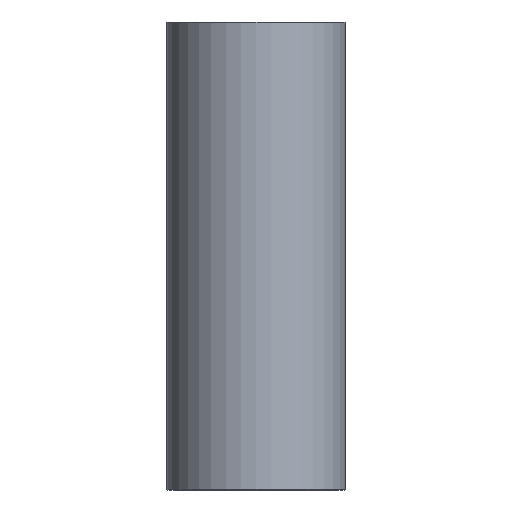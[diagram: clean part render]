
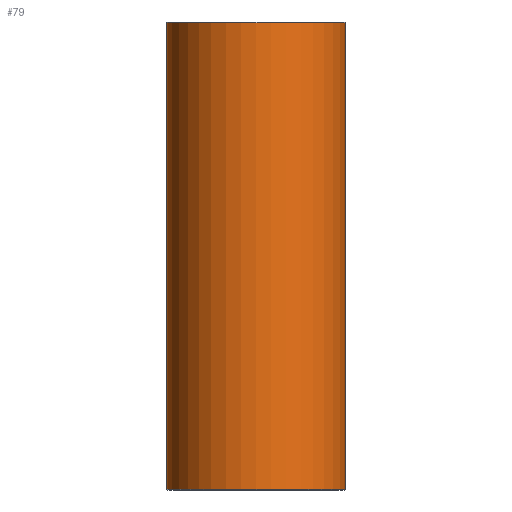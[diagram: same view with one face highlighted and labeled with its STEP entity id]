
A CAD part, front view. The second image highlights one B-rep face of the part: STEP entity #79.
In plain terms, the highlighted cylindrical face has radius 20 mm (diameter 40 mm), a full revolution.
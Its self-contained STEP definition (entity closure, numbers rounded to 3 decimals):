
#79=ADVANCED_FACE('',(#96,#97),#98,.T.);
#96=FACE_OUTER_BOUND('',#120,.T.);
#97=FACE_OUTER_BOUND('',#121,.T.);
#98=CYLINDRICAL_SURFACE('',#122,20.0);
#120=EDGE_LOOP('',(#152));
#121=EDGE_LOOP('',(#153));
#122=AXIS2_PLACEMENT_3D('',#154,#155,#156);
#152=ORIENTED_EDGE('',*,*,#178,.T.);
#153=ORIENTED_EDGE('',*,*,#177,.T.);
#154=CARTESIAN_POINT('',(0.,0.0,105.0));
#155=DIRECTION('',(0.0,0.0,-1.0));
#156=DIRECTION('',(-1.0,0.0,0.0));
#177=EDGE_CURVE('',#190,#190,#191,.T.);
#178=EDGE_CURVE('',#192,#192,#193,.F.);
#190=VERTEX_POINT('',#206);
#191=CIRCLE('',#207,20.0);
#192=VERTEX_POINT('',#208);
#193=CIRCLE('',#209,20.0);
#206=CARTESIAN_POINT('',(20.0,0.0,0.2));
#207=AXIS2_PLACEMENT_3D('',#227,#228,#229);
#208=CARTESIAN_POINT('',(20.0,0.,104.8));
#209=AXIS2_PLACEMENT_3D('',#230,#231,#232);
#227=CARTESIAN_POINT('',(0.,0.0,0.2));
#228=DIRECTION('',(0.0,0.0,1.0));
#229=DIRECTION('',(1.0,0.0,0.0));
#230=CARTESIAN_POINT('',(0.,0.0,104.8));
#231=DIRECTION('',(0.0,0.0,1.0));
#232=DIRECTION('',(1.0,0.0,0.0));
